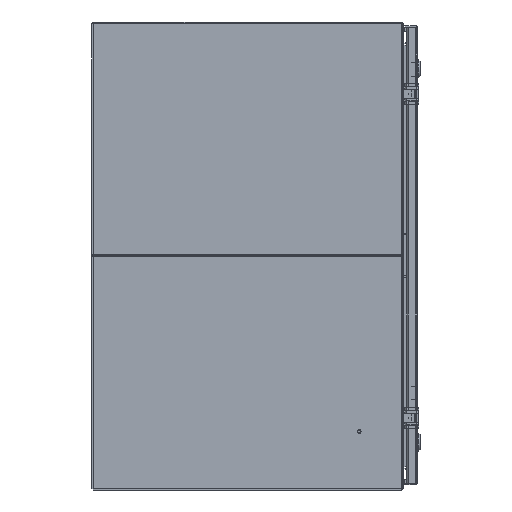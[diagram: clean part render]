
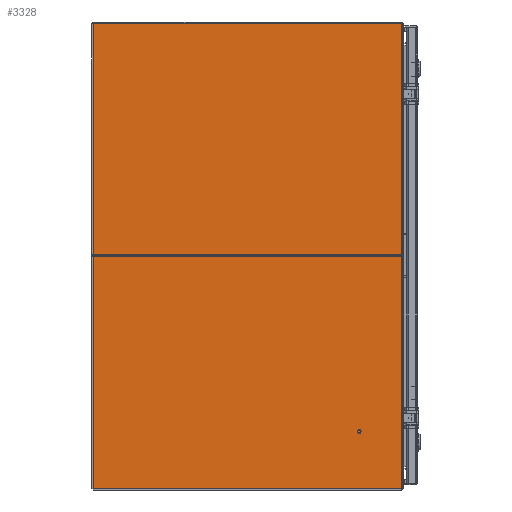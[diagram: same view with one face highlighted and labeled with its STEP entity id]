
A CAD part, left-side view. The second image highlights one B-rep face of the part: STEP entity #3328.
In plain terms, the highlighted planar face has unit normal (-1, 0, 0) as drawn and (0, 0, 1) by its records, which use the part's own axes.
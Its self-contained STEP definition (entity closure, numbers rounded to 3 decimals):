
#3328 = ADVANCED_FACE( '', ( #4968 ), #4969, .F. );
#4968 = FACE_OUTER_BOUND( '', #8302, .T. );
#4969 = PLANE( '', #8303 );
#8302 = EDGE_LOOP( '', ( #14962, #14963, #14964, #14965 ) );
#8303 = AXIS2_PLACEMENT_3D( '', #14966, #14967, #14968 );
#14962 = ORIENTED_EDGE( '', *, *, #19288, .T. );
#14963 = ORIENTED_EDGE( '', *, *, #19346, .T. );
#14964 = ORIENTED_EDGE( '', *, *, #19365, .T. );
#14965 = ORIENTED_EDGE( '', *, *, #19366, .T. );
#14966 = CARTESIAN_POINT( '', ( -328.371, 218.796, 0. ) );
#14967 = DIRECTION( '', ( 0., 0., -1. ) );
#14968 = DIRECTION( '', ( -1., 0., 0. ) );
#19288 = EDGE_CURVE( '', #22077, #22075, #22078, .T. );
#19346 = EDGE_CURVE( '', #22075, #22172, #22174, .T. );
#19365 = EDGE_CURVE( '', #22172, #22198, #22199, .T. );
#19366 = EDGE_CURVE( '', #22198, #22077, #22200, .T. );
#22075 = VERTEX_POINT( '', #26703 );
#22077 = VERTEX_POINT( '', #26706 );
#22078 = LINE( '', #26707, #26708 );
#22172 = VERTEX_POINT( '', #26897 );
#22174 = LINE( '', #26908, #26909 );
#22198 = VERTEX_POINT( '', #26972 );
#22199 = LINE( '', #26973, #26974 );
#22200 = LINE( '', #26975, #26976 );
#26703 = CARTESIAN_POINT( '', ( -328.371, -216.052, 0. ) );
#26706 = CARTESIAN_POINT( '', ( -328.371, 218.796, 0. ) );
#26707 = CARTESIAN_POINT( '', ( -328.371, 218.796, 0. ) );
#26708 = VECTOR( '', #31765, 1000. );
#26897 = CARTESIAN_POINT( '', ( 328.371, -216.052, 0. ) );
#26908 = CARTESIAN_POINT( '', ( -328.371, -216.052, 0. ) );
#26909 = VECTOR( '', #31820, 1000. );
#26972 = CARTESIAN_POINT( '', ( 328.371, 218.796, 0. ) );
#26973 = CARTESIAN_POINT( '', ( 328.371, -218.796, 0. ) );
#26974 = VECTOR( '', #31842, 1000. );
#26975 = CARTESIAN_POINT( '', ( 328.371, 218.796, 0. ) );
#26976 = VECTOR( '', #31843, 1000. );
#31765 = DIRECTION( '', ( 0., -1., 0. ) );
#31820 = DIRECTION( '', ( 1., 0., 0. ) );
#31842 = DIRECTION( '', ( 0., 1., 0. ) );
#31843 = DIRECTION( '', ( -1., 0., 0. ) );
